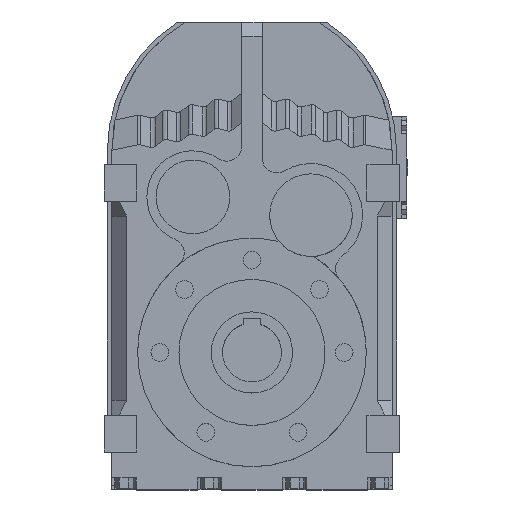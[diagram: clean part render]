
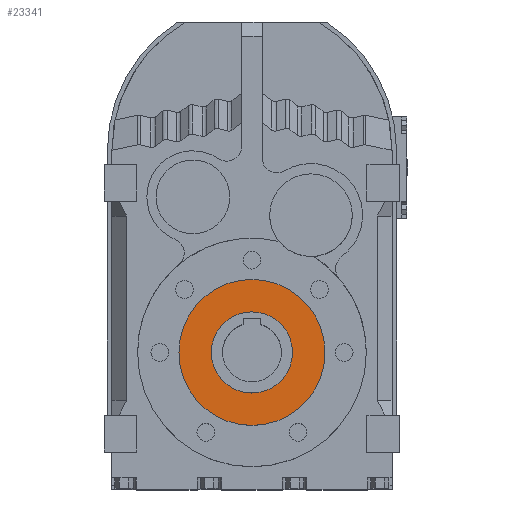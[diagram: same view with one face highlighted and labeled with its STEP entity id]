
A CAD part, top view. The second image highlights one B-rep face of the part: STEP entity #23341.
In plain terms, the highlighted planar face has unit normal (0, 0, 1).
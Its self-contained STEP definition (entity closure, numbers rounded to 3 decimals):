
#20459 = CYLINDRICAL_SURFACE('',#20460,49.5);
#20460 = AXIS2_PLACEMENT_3D('',#20461,#20462,#20463);
#20461 = CARTESIAN_POINT('',(0.,-136.,110.123));
#20462 = DIRECTION('',(0.,0.,1.));
#20463 = DIRECTION('',(1.,0.,0.));
#20485 = CYLINDRICAL_SURFACE('',#20486,49.5);
#20486 = AXIS2_PLACEMENT_3D('',#20487,#20488,#20489);
#20487 = CARTESIAN_POINT('',(0.,-136.,110.123));
#20488 = DIRECTION('',(0.,0.,1.));
#20489 = DIRECTION('',(1.,0.,0.));
#22429 = EDGE_CURVE('',#22430,#22432,#22434,.T.);
#22430 = VERTEX_POINT('',#22431);
#22431 = CARTESIAN_POINT('',(-49.5,-136.,145.5));
#22432 = VERTEX_POINT('',#22433);
#22433 = CARTESIAN_POINT('',(49.5,-136.,145.5));
#22434 = SURFACE_CURVE('',#22435,(#22440,#22446),.PCURVE_S1.);
#22435 = CIRCLE('',#22436,49.5);
#22436 = AXIS2_PLACEMENT_3D('',#22437,#22438,#22439);
#22437 = CARTESIAN_POINT('',(0.,-136.,145.5));
#22438 = DIRECTION('',(0.,0.,1.));
#22439 = DIRECTION('',(1.,0.,0.));
#22440 = PCURVE('',#20485,#22441);
#22441 = DEFINITIONAL_REPRESENTATION('',(#22442),#22445);
#22442 = B_SPLINE_CURVE_WITH_KNOTS('',1,(#22443,#22444),.UNSPECIFIED.,
  .F.,.F.,(2,2),(3.142,6.283),.PIECEWISE_BEZIER_KNOTS.);
#22443 = CARTESIAN_POINT('',(3.142,35.377));
#22444 = CARTESIAN_POINT('',(6.283,35.377));
#22445 = ( GEOMETRIC_REPRESENTATION_CONTEXT(2) 
PARAMETRIC_REPRESENTATION_CONTEXT() REPRESENTATION_CONTEXT('2D SPACE',''
  ) );
#22446 = PCURVE('',#22447,#22452);
#22447 = PLANE('',#22448);
#22448 = AXIS2_PLACEMENT_3D('',#22449,#22450,#22451);
#22449 = CARTESIAN_POINT('',(0.,-86.5,145.5));
#22450 = DIRECTION('',(0.,0.,1.));
#22451 = DIRECTION('',(1.,0.,0.));
#22452 = DEFINITIONAL_REPRESENTATION('',(#22453),#22457);
#22453 = CIRCLE('',#22454,49.5);
#22454 = AXIS2_PLACEMENT_2D('',#22455,#22456);
#22455 = CARTESIAN_POINT('',(0.,-49.5));
#22456 = DIRECTION('',(1.,0.));
#22457 = ( GEOMETRIC_REPRESENTATION_CONTEXT(2) 
PARAMETRIC_REPRESENTATION_CONTEXT() REPRESENTATION_CONTEXT('2D SPACE',''
  ) );
#22576 = EDGE_CURVE('',#22432,#22430,#22577,.T.);
#22577 = SURFACE_CURVE('',#22578,(#22583,#22589),.PCURVE_S1.);
#22578 = CIRCLE('',#22579,49.5);
#22579 = AXIS2_PLACEMENT_3D('',#22580,#22581,#22582);
#22580 = CARTESIAN_POINT('',(0.,-136.,145.5));
#22581 = DIRECTION('',(0.,0.,1.));
#22582 = DIRECTION('',(1.,0.,0.));
#22583 = PCURVE('',#20459,#22584);
#22584 = DEFINITIONAL_REPRESENTATION('',(#22585),#22588);
#22585 = B_SPLINE_CURVE_WITH_KNOTS('',1,(#22586,#22587),.UNSPECIFIED.,
  .F.,.F.,(2,2),(0.,3.142),.PIECEWISE_BEZIER_KNOTS.);
#22586 = CARTESIAN_POINT('',(0.,35.377));
#22587 = CARTESIAN_POINT('',(3.142,35.377));
#22588 = ( GEOMETRIC_REPRESENTATION_CONTEXT(2) 
PARAMETRIC_REPRESENTATION_CONTEXT() REPRESENTATION_CONTEXT('2D SPACE',''
  ) );
#22589 = PCURVE('',#22447,#22590);
#22590 = DEFINITIONAL_REPRESENTATION('',(#22591),#22595);
#22591 = CIRCLE('',#22592,49.5);
#22592 = AXIS2_PLACEMENT_2D('',#22593,#22594);
#22593 = CARTESIAN_POINT('',(0.,-49.5));
#22594 = DIRECTION('',(1.,0.));
#22595 = ( GEOMETRIC_REPRESENTATION_CONTEXT(2) 
PARAMETRIC_REPRESENTATION_CONTEXT() REPRESENTATION_CONTEXT('2D SPACE',''
  ) );
#23272 = CYLINDRICAL_SURFACE('',#23273,27.5);
#23273 = AXIS2_PLACEMENT_3D('',#23274,#23275,#23276);
#23274 = CARTESIAN_POINT('',(0.,-136.,110.123));
#23275 = DIRECTION('',(0.,0.,1.));
#23276 = DIRECTION('',(1.,0.,0.));
#23302 = CYLINDRICAL_SURFACE('',#23303,27.5);
#23303 = AXIS2_PLACEMENT_3D('',#23304,#23305,#23306);
#23304 = CARTESIAN_POINT('',(0.,-136.,110.123));
#23305 = DIRECTION('',(0.,0.,1.));
#23306 = DIRECTION('',(1.,0.,0.));
#23341 = ADVANCED_FACE('',(#23342,#23346),#22447,.T.);
#23342 = FACE_BOUND('',#23343,.T.);
#23343 = EDGE_LOOP('',(#23344,#23345));
#23344 = ORIENTED_EDGE('',*,*,#22576,.T.);
#23345 = ORIENTED_EDGE('',*,*,#22429,.T.);
#23346 = FACE_BOUND('',#23347,.T.);
#23347 = EDGE_LOOP('',(#23348,#23373));
#23348 = ORIENTED_EDGE('',*,*,#23349,.F.);
#23349 = EDGE_CURVE('',#23350,#23352,#23354,.T.);
#23350 = VERTEX_POINT('',#23351);
#23351 = CARTESIAN_POINT('',(27.5,-136.,145.5));
#23352 = VERTEX_POINT('',#23353);
#23353 = CARTESIAN_POINT('',(-27.5,-136.,145.5));
#23354 = SURFACE_CURVE('',#23355,(#23360,#23367),.PCURVE_S1.);
#23355 = CIRCLE('',#23356,27.5);
#23356 = AXIS2_PLACEMENT_3D('',#23357,#23358,#23359);
#23357 = CARTESIAN_POINT('',(0.,-136.,145.5));
#23358 = DIRECTION('',(0.,0.,1.));
#23359 = DIRECTION('',(1.,0.,0.));
#23360 = PCURVE('',#22447,#23361);
#23361 = DEFINITIONAL_REPRESENTATION('',(#23362),#23366);
#23362 = CIRCLE('',#23363,27.5);
#23363 = AXIS2_PLACEMENT_2D('',#23364,#23365);
#23364 = CARTESIAN_POINT('',(0.,-49.5));
#23365 = DIRECTION('',(1.,0.));
#23366 = ( GEOMETRIC_REPRESENTATION_CONTEXT(2) 
PARAMETRIC_REPRESENTATION_CONTEXT() REPRESENTATION_CONTEXT('2D SPACE',''
  ) );
#23367 = PCURVE('',#23272,#23368);
#23368 = DEFINITIONAL_REPRESENTATION('',(#23369),#23372);
#23369 = B_SPLINE_CURVE_WITH_KNOTS('',1,(#23370,#23371),.UNSPECIFIED.,
  .F.,.F.,(2,2),(0.,3.142),.PIECEWISE_BEZIER_KNOTS.);
#23370 = CARTESIAN_POINT('',(0.,35.377));
#23371 = CARTESIAN_POINT('',(3.142,35.377));
#23372 = ( GEOMETRIC_REPRESENTATION_CONTEXT(2) 
PARAMETRIC_REPRESENTATION_CONTEXT() REPRESENTATION_CONTEXT('2D SPACE',''
  ) );
#23373 = ORIENTED_EDGE('',*,*,#23374,.F.);
#23374 = EDGE_CURVE('',#23352,#23350,#23375,.T.);
#23375 = SURFACE_CURVE('',#23376,(#23381,#23388),.PCURVE_S1.);
#23376 = CIRCLE('',#23377,27.5);
#23377 = AXIS2_PLACEMENT_3D('',#23378,#23379,#23380);
#23378 = CARTESIAN_POINT('',(0.,-136.,145.5));
#23379 = DIRECTION('',(0.,0.,1.));
#23380 = DIRECTION('',(1.,0.,0.));
#23381 = PCURVE('',#22447,#23382);
#23382 = DEFINITIONAL_REPRESENTATION('',(#23383),#23387);
#23383 = CIRCLE('',#23384,27.5);
#23384 = AXIS2_PLACEMENT_2D('',#23385,#23386);
#23385 = CARTESIAN_POINT('',(0.,-49.5));
#23386 = DIRECTION('',(1.,0.));
#23387 = ( GEOMETRIC_REPRESENTATION_CONTEXT(2) 
PARAMETRIC_REPRESENTATION_CONTEXT() REPRESENTATION_CONTEXT('2D SPACE',''
  ) );
#23388 = PCURVE('',#23302,#23389);
#23389 = DEFINITIONAL_REPRESENTATION('',(#23390),#23393);
#23390 = B_SPLINE_CURVE_WITH_KNOTS('',1,(#23391,#23392),.UNSPECIFIED.,
  .F.,.F.,(2,2),(3.142,6.283),.PIECEWISE_BEZIER_KNOTS.);
#23391 = CARTESIAN_POINT('',(3.142,35.377));
#23392 = CARTESIAN_POINT('',(6.283,35.377));
#23393 = ( GEOMETRIC_REPRESENTATION_CONTEXT(2) 
PARAMETRIC_REPRESENTATION_CONTEXT() REPRESENTATION_CONTEXT('2D SPACE',''
  ) );
